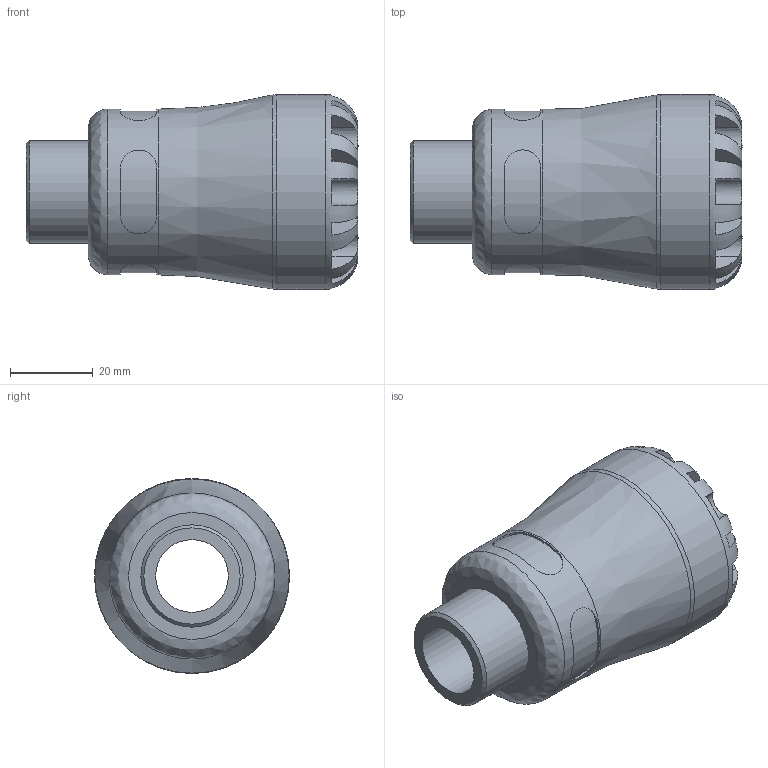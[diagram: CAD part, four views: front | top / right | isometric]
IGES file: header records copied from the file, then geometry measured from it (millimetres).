
Global section: file name: 107200025007_197200025007.ipt; native system: Autodesk Inventor 2015; preprocessor: unknown; author: KIM; date: 20170122.104923; units: millimetre
Bounding box: 80 x 47 x 47 mm (x, y, z)
Volume: 66475.8 mm3; surface area: 18462.9 mm2
Topology: 1 solids, 1 shells, 99 faces, 255 edges, 163 vertices
Faces by surface type: plane 60, revolution 23, cylinder 15, cone 1
Full cylindrical faces by diameter (mm): 24.658 x1, 39.95 x1, 47 x1
